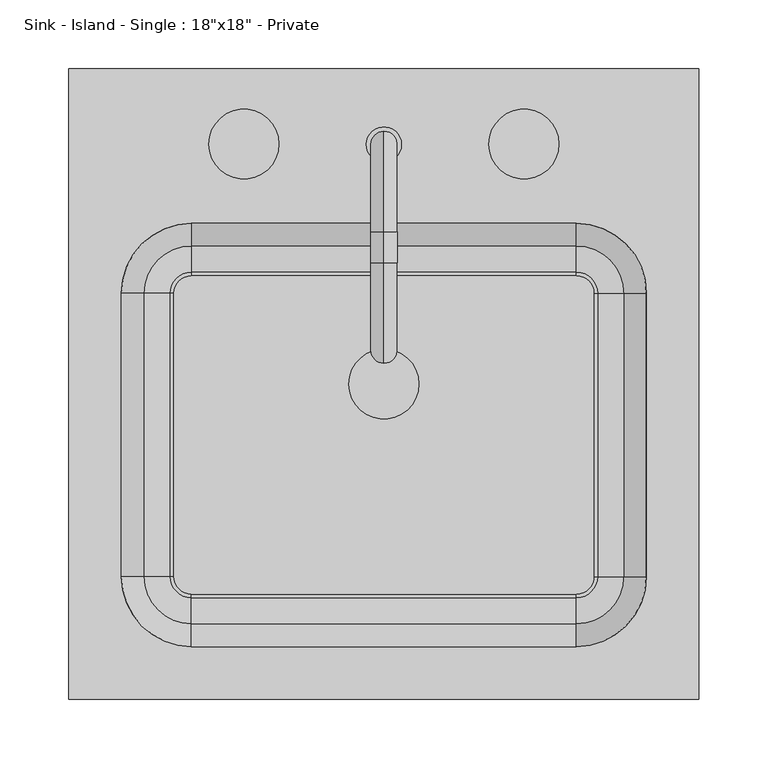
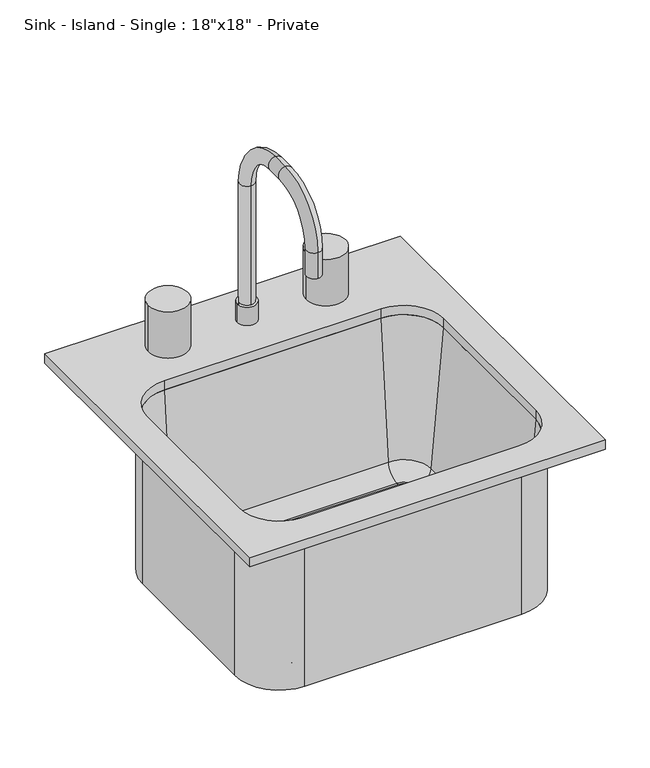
"""IFC4 building model written with IfcOpenShell, lengths in millimetres: flow terminal geometry."""

from ifc_helpers import new_model, si_unit, point, frame, frame_2d, origin, origin_with_axes, origin_2d, place, context, project, spatial, polyline, circle_curve, ellipse_curve, trimmed, segment, composite_curve, outline, extrude, source, transform, mapped, element, save
from ifc_brep_helpers import plane_surface, cylinder_surface, revolved_surface, advanced_brep


def flow_terminal_ae45b8c9(model_context):
    return source(origin(), model_context, "Body", "SolidModel", [
        extrude(outline(composite_curve([segment(trimmed(circle_curve(frame_2d((139.7, 65.8454011)), 12.7), [point((139.7, 78.5454011))], [point((152.4, 65.8454011))], False, "CARTESIAN"), True, "CONTINUOUS"), segment(polyline([(152.4, 65.8454011), (152.4, -139.7)]), True, "CONTINUOUS"), segment(trimmed(circle_curve(frame_2d((139.7, -139.7)), 12.7), [point((152.4, -139.7))], [point((139.7, -152.4))], False, "CARTESIAN"), True, "CONTINUOUS"), segment(polyline([(139.7, -152.4), (-139.7, -152.4)]), True, "CONTINUOUS"), segment(trimmed(circle_curve(frame_2d((-139.7, -139.7)), 12.7), [point((-139.7, -152.4))], [point((-152.4, -139.7))], False, "CARTESIAN"), True, "CONTINUOUS"), segment(polyline([(-152.4, -139.7), (-152.4, 65.8454011)]), True, "CONTINUOUS"), segment(trimmed(circle_curve(frame_2d((-139.7, 65.8454011)), 12.7), [point((-152.4, 65.8454011))], [point((-139.7, 78.5454011))], False, "CARTESIAN"), True, "CONTINUOUS"), segment(polyline([(-139.7, 78.5454011), (139.7, 78.5454011)]), True, "CONTINUOUS")], self_intersect=False), holes=[composite_curve([segment(trimmed(circle_curve(origin_2d(), 25.4), [point((-25.4, 0.0))], [point((25.4, 0.0))], True, "CARTESIAN"), True, "CONTINUOUS"), segment(trimmed(circle_curve(origin_2d(), 25.4), [point((25.4, 0.0))], [point((-25.4, 0.0))], True, "CARTESIAN"), True, "CONTINUOUS")], self_intersect=False)]), frame((0.0, 0.0, -212.725), z_axis=(0.0, 0.0, 1.0), x_axis=(1.0, 0.0, 0.0)), (0.0, 0.0, 1.0), 9.525),
        advanced_brep(
        [(196.85, 65.8454011, -212.725), (139.7, 122.9954011, -212.725), (139.7, 122.9954011, 0.0), (196.85, 65.8454011, 0.0), (152.4, 65.8454011, -212.725), (139.7, 78.5454011, -212.725), (152.4, 65.8454011, -203.2), (139.7, 78.5454011, -203.2), (154.9884182, 65.8454011, -203.2), (139.7, 81.1338193, -203.2), (173.9659272, 65.8454011, -185.8103169), (139.7, 100.1113283, -185.8103169), (190.5, 65.8454011, 0.0), (139.7, 116.6454011, 0.0), (196.85, -139.7, 0.0), (196.85, -139.7, -212.725), (152.4, -139.7, -212.725), (152.4, -139.7, -203.2), (154.9884182, -139.7, -203.2), (173.9659272, -139.7, -185.8103169), (190.5, -139.7, 0.0), (139.7, -196.85, -212.725), (139.7, -196.85, 0.0), (139.7, -152.4, -212.725), (139.7, -152.4, -203.2), (139.7, -154.9884182, -203.2), (139.7, -173.9659272, -185.8103169), (139.7, -190.5, 0.0), (-139.7, -196.85, 0.0), (-139.7, -196.85, -212.725), (-139.7, -152.4, -212.725), (-139.7, -152.4, -203.2), (-139.7, -154.9884182, -203.2), (-139.7, -173.9659272, -185.8103169), (-139.7, -190.5, 0.0), (-196.85, -139.7, -212.725), (-196.85, -139.7, 0.0), (-152.4, -139.7, -212.725), (-152.4, -139.7, -203.2), (-154.9884182, -139.7, -203.2), (-173.9659272, -139.7, -185.8103169), (-190.5, -139.7, 0.0), (-196.85, 65.8454011, 0.0), (-196.85, 65.8454011, -212.725), (-152.4, 65.8454011, -212.725), (-152.4, 65.8454011, -203.2), (-154.9884182, 65.8454011, -203.2), (-173.9659272, 65.8454011, -185.8103169), (-190.5, 65.8454011, 0.0), (-139.7, 122.9954011, -212.725), (-139.7, 122.9954011, 0.0), (-139.7, 78.5454011, -212.725), (-139.7, 78.5454011, -203.2), (-139.7, 81.1338193, -203.2), (-139.7, 100.1113283, -185.8103169), (-139.7, 116.6454011, 0.0)],
        [
            (0, 1, circle_curve(frame((139.7, 65.8454011, -212.725), z_axis=(0.0, 0.0, 1.0), x_axis=(0.0, 1.0, 0.0)), 57.15)),
            (1, 2),
            (2, 3, circle_curve(frame((139.7, 65.8454011, 0.0), z_axis=(0.0, 0.0, -1.0), x_axis=(0.0, 1.0, 0.0)), 57.15)),
            (3, 0),
            (4, 5, circle_curve(frame((139.7, 65.8454011, -212.725), z_axis=(0.0, 0.0, 1.0), x_axis=(0.0, 1.0, 0.0)), 12.7)),
            (5, 1),
            (0, 4),
            (6, 7, circle_curve(frame((139.7, 65.8454011, -203.2), z_axis=(0.0, 0.0, 1.0), x_axis=(0.0, 1.0, 0.0)), 12.7)),
            (7, 5),
            (4, 6),
            (8, 9, circle_curve(frame((139.7, 65.8454011, -203.2), z_axis=(0.0, 0.0, 1.0), x_axis=(0.0, 1.0, 0.0)), 15.2884182)),
            (9, 7),
            (6, 8),
            (10, 11, circle_curve(frame((139.7, 65.8454011, -185.8103169), z_axis=(0.0, 0.0, 1.0), x_axis=(0.0, 1.0, 0.0)), 34.2659272)),
            (11, 9, circle_curve(frame((139.7, 81.1338193, -184.15), z_axis=(-1.0, 0.0, 0.0), x_axis=(0.0, 1.0, 0.0)), 19.05)),
            (8, 10, circle_curve(frame((154.9884182, 65.8454011, -184.15), z_axis=(0.0, -1.0, 0.0), x_axis=(1.0, 0.0, 0.0)), 19.05)),
            (12, 13, circle_curve(frame((139.7, 65.8454011, 0.0), z_axis=(0.0, 0.0, 1.0), x_axis=(0.0, 1.0, 0.0)), 50.8)),
            (13, 11),
            (10, 12),
            (2, 13),
            (12, 3),
            (3, 14),
            (14, 15),
            (15, 0),
            (15, 16),
            (16, 4),
            (16, 17),
            (17, 6),
            (17, 18),
            (18, 8),
            (18, 19, circle_curve(frame((154.9884182, -139.7, -184.15), z_axis=(0.0, -1.0, 0.0), x_axis=(1.0, 0.0, 0.0)), 19.05)),
            (19, 10),
            (19, 20),
            (20, 12),
            (20, 14),
            (21, 15, circle_curve(frame((139.7, -139.7, -212.725), z_axis=(0.0, 0.0, 1.0), x_axis=(1.0, 0.0, 0.0)), 57.15)),
            (14, 22, circle_curve(frame((139.7, -139.7, 0.0), z_axis=(0.0, 0.0, -1.0), x_axis=(1.0, 0.0, 0.0)), 57.15)),
            (22, 21),
            (23, 16, circle_curve(frame((139.7, -139.7, -212.725), z_axis=(0.0, 0.0, 1.0), x_axis=(1.0, 0.0, 0.0)), 12.7)),
            (21, 23),
            (24, 17, circle_curve(frame((139.7, -139.7, -203.2), z_axis=(0.0, 0.0, 1.0), x_axis=(1.0, 0.0, 0.0)), 12.7)),
            (23, 24),
            (25, 18, circle_curve(frame((139.7, -139.7, -203.2), z_axis=(0.0, 0.0, 1.0), x_axis=(1.0, 0.0, 0.0)), 15.2884182)),
            (24, 25),
            (26, 19, circle_curve(frame((139.7, -139.7, -185.8103169), z_axis=(0.0, 0.0, 1.0), x_axis=(1.0, 0.0, 0.0)), 34.2659272)),
            (25, 26, circle_curve(frame((139.7, -154.9884182, -184.15), z_axis=(-1.0, 0.0, 0.0), x_axis=(0.0, -1.0, 0.0)), 19.05)),
            (27, 20, circle_curve(frame((139.7, -139.7, 0.0), z_axis=(0.0, 0.0, 1.0), x_axis=(1.0, 0.0, 0.0)), 50.8)),
            (26, 27),
            (27, 22),
            (22, 28),
            (28, 29),
            (29, 21),
            (29, 30),
            (30, 23),
            (30, 31),
            (31, 24),
            (31, 32),
            (32, 25),
            (32, 33, circle_curve(frame((-139.7, -154.9884182, -184.15), z_axis=(-1.0, 0.0, 0.0), x_axis=(0.0, -1.0, 0.0)), 19.05)),
            (33, 26),
            (33, 34),
            (34, 27),
            (34, 28),
            (35, 29, circle_curve(frame((-139.7, -139.7, -212.725), z_axis=(0.0, 0.0, 1.0), x_axis=(0.0, -1.0, 0.0)), 57.15)),
            (28, 36, circle_curve(frame((-139.7, -139.7, 0.0), z_axis=(0.0, 0.0, -1.0), x_axis=(0.0, -1.0, 0.0)), 57.15)),
            (36, 35),
            (37, 30, circle_curve(frame((-139.7, -139.7, -212.725), z_axis=(0.0, 0.0, 1.0), x_axis=(0.0, -1.0, 0.0)), 12.7)),
            (35, 37),
            (38, 31, circle_curve(frame((-139.7, -139.7, -203.2), z_axis=(0.0, 0.0, 1.0), x_axis=(0.0, -1.0, 0.0)), 12.7)),
            (37, 38),
            (39, 32, circle_curve(frame((-139.7, -139.7, -203.2), z_axis=(0.0, 0.0, 1.0), x_axis=(0.0, -1.0, 0.0)), 15.2884182)),
            (38, 39),
            (40, 33, circle_curve(frame((-139.7, -139.7, -185.8103169), z_axis=(0.0, 0.0, 1.0), x_axis=(0.0, -1.0, 0.0)), 34.2659272)),
            (39, 40, circle_curve(frame((-154.9884182, -139.7, -184.15), z_axis=(0.0, 1.0, 0.0), x_axis=(-1.0, 0.0, 0.0)), 19.05)),
            (41, 34, circle_curve(frame((-139.7, -139.7, 0.0), z_axis=(0.0, 0.0, 1.0), x_axis=(0.0, -1.0, 0.0)), 50.8)),
            (40, 41),
            (41, 36),
            (36, 42),
            (42, 43),
            (43, 35),
            (43, 44),
            (44, 37),
            (44, 45),
            (45, 38),
            (45, 46),
            (46, 39),
            (46, 47, circle_curve(frame((-154.9884182, 65.8454011, -184.15), z_axis=(0.0, 1.0, 0.0), x_axis=(-1.0, 0.0, 0.0)), 19.05)),
            (47, 40),
            (47, 48),
            (48, 41),
            (48, 42),
            (49, 43, circle_curve(frame((-139.7, 65.8454011, -212.725), z_axis=(0.0, 0.0, 1.0), x_axis=(-1.0, 0.0, 0.0)), 57.15)),
            (42, 50, circle_curve(frame((-139.7, 65.8454011, 0.0), z_axis=(0.0, 0.0, -1.0), x_axis=(-1.0, 0.0, 0.0)), 57.15)),
            (50, 49),
            (51, 44, circle_curve(frame((-139.7, 65.8454011, -212.725), z_axis=(0.0, 0.0, 1.0), x_axis=(-1.0, 0.0, 0.0)), 12.7)),
            (49, 51),
            (52, 45, circle_curve(frame((-139.7, 65.8454011, -203.2), z_axis=(0.0, 0.0, 1.0), x_axis=(-1.0, 0.0, 0.0)), 12.7)),
            (51, 52),
            (53, 46, circle_curve(frame((-139.7, 65.8454011, -203.2), z_axis=(0.0, 0.0, 1.0), x_axis=(-1.0, 0.0, 0.0)), 15.2884182)),
            (52, 53),
            (54, 47, circle_curve(frame((-139.7, 65.8454011, -185.8103169), z_axis=(0.0, 0.0, 1.0), x_axis=(-1.0, 0.0, 0.0)), 34.2659272)),
            (53, 54, circle_curve(frame((-139.7, 81.1338193, -184.15), z_axis=(1.0, 0.0, 0.0), x_axis=(0.0, 1.0, 0.0)), 19.05)),
            (55, 48, circle_curve(frame((-139.7, 65.8454011, 0.0), z_axis=(0.0, 0.0, 1.0), x_axis=(-1.0, 0.0, 0.0)), 50.8)),
            (54, 55),
            (55, 50),
            (50, 2),
            (1, 49),
            (5, 51),
            (7, 52),
            (9, 53),
            (11, 54),
            (13, 55),
        ],
        [
            cylinder_surface(frame((139.7, 65.8454011, -914.4), z_axis=(0.0, 0.0, -1.0), x_axis=(0.0, 1.0, 0.0)), 57.15),
            plane_surface(frame((139.7, 65.8454011, -212.725), z_axis=(0.0, 0.0, -1.0), x_axis=(0.0, 1.0, 0.0))),
            revolved_surface(polyline([(139.7, 78.5454011, -212.72500000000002), (139.7, 78.5454011, -203.19999999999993)]), (139.7, 65.8454011, -914.4), (0.0, 0.0, -1.0)),
            plane_surface(frame((139.7, 65.8454011, -203.2), z_axis=(0.0, 0.0, 1.0), x_axis=(0.0, 1.0, 0.0))),
            revolved_surface(trimmed(ellipse_curve(frame((139.7, 81.1338193, -184.15), z_axis=(1.0, 0.0, 0.0), x_axis=(0.0, 1.0, 0.0)), 19.05, 19.05), [point((139.7, 81.1338193, -203.2))], [point((139.7, 100.1113283, -185.8103169))], True, "CARTESIAN"), (139.7, 65.8454011, -914.4), (0.0, 0.0, -1.0)),
            revolved_surface(polyline([(139.7, 100.1113283, -185.8103169), (139.7, 116.6454011, 0.0)]), (139.7, 65.8454011, -914.4), (0.0, 0.0, -1.0)),
            plane_surface(frame((139.7, 65.8454011, 0.0), z_axis=(0.0, 0.0, 1.0), x_axis=(0.0, 1.0, 0.0))),
            plane_surface(frame((196.85, 65.8454011, 0.0), z_axis=(1.0, 0.0, 0.0), x_axis=(0.0, -1.0, 0.0))),
            plane_surface(frame((196.85, 65.8454011, -212.725), z_axis=(0.0, 0.0, -1.0), x_axis=(0.0, -1.0, 0.0))),
            plane_surface(frame((152.4, 65.8454011, -212.725), z_axis=(-1.0, 0.0, 0.0), x_axis=(0.0, -1.0, 0.0))),
            plane_surface(frame((152.4, 65.8454011, -203.2), z_axis=(0.0, 0.0, 1.0), x_axis=(0.0, -1.0, 0.0))),
            revolved_surface(polyline([(174.03841820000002, -139.7, -184.15), (174.03841820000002, 65.8454011, -184.15)]), (154.9884182, 65.8454011, -184.15), (0.0, -1.0, 0.0)),
            plane_surface(frame((173.9659272, 65.8454011, -185.8103169), z_axis=(-0.9960643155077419, 0.0, 0.08863339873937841), x_axis=(0.0, -1.0, 0.0))),
            plane_surface(frame((190.5, 65.8454011, 0.0), z_axis=(0.0, 0.0, 1.0), x_axis=(0.0, -1.0, 0.0))),
            cylinder_surface(frame((139.7, -139.7, -914.4), z_axis=(0.0, 0.0, -1.0), x_axis=(1.0, 0.0, 0.0)), 57.15),
            plane_surface(frame((139.7, -139.7, -212.725), z_axis=(0.0, 0.0, -1.0), x_axis=(1.0, 0.0, 0.0))),
            revolved_surface(polyline([(152.39999999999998, -139.7, -212.72500000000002), (152.39999999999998, -139.7, -203.19999999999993)]), (139.7, -139.7, -914.4), (0.0, 0.0, -1.0)),
            plane_surface(frame((139.7, -139.7, -203.2), z_axis=(0.0, 0.0, 1.0), x_axis=(1.0, 0.0, 0.0))),
            revolved_surface(trimmed(ellipse_curve(frame((154.9884182, -139.7, -184.15), z_axis=(0.0, -1.0, 0.0), x_axis=(1.0, 0.0, 0.0)), 19.05, 19.05), [point((154.9884182, -139.7, -203.2))], [point((173.9659272, -139.7, -185.8103169))], True, "CARTESIAN"), (139.7, -139.7, -914.4), (0.0, 0.0, -1.0)),
            revolved_surface(polyline([(173.9659272, -139.7, -185.8103169), (190.5, -139.7, 0.0)]), (139.7, -139.7, -914.4), (0.0, 0.0, -1.0)),
            plane_surface(frame((139.7, -139.7, 0.0), z_axis=(0.0, 0.0, 1.0), x_axis=(1.0, 0.0, 0.0))),
            plane_surface(frame((139.7, -196.85, 0.0), z_axis=(0.0, -1.0, 0.0), x_axis=(-1.0, 0.0, 0.0))),
            plane_surface(frame((139.7, -196.85, -212.725), z_axis=(0.0, 0.0, -1.0), x_axis=(-1.0, 0.0, 0.0))),
            plane_surface(frame((139.7, -152.4, -212.725), z_axis=(0.0, 1.0, 0.0), x_axis=(-1.0, 0.0, 0.0))),
            plane_surface(frame((139.7, -152.4, -203.2), z_axis=(0.0, 0.0, 1.0), x_axis=(-1.0, 0.0, 0.0))),
            revolved_surface(polyline([(-139.7, -174.03841820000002, -184.15), (139.7, -174.03841820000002, -184.15)]), (139.7, -154.9884182, -184.15), (-1.0, 0.0, 0.0)),
            plane_surface(frame((139.7, -173.9659272, -185.8103169), z_axis=(0.0, 0.9960643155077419, 0.08863339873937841), x_axis=(-1.0, 0.0, 0.0))),
            plane_surface(frame((139.7, -190.5, 0.0), z_axis=(0.0, 0.0, 1.0), x_axis=(-1.0, 0.0, 0.0))),
            cylinder_surface(frame((-139.7, -139.7, -914.4), z_axis=(0.0, 0.0, -1.0), x_axis=(0.0, -1.0, 0.0)), 57.15),
            plane_surface(frame((-139.7, -139.7, -212.725), z_axis=(0.0, 0.0, -1.0), x_axis=(0.0, -1.0, 0.0))),
            revolved_surface(polyline([(-139.7, -152.39999999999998, -212.72500000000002), (-139.7, -152.39999999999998, -203.19999999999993)]), (-139.7, -139.7, -914.4), (0.0, 0.0, -1.0)),
            plane_surface(frame((-139.7, -139.7, -203.2), z_axis=(0.0, 0.0, 1.0), x_axis=(0.0, -1.0, 0.0))),
            revolved_surface(trimmed(ellipse_curve(frame((-139.7, -154.9884182, -184.15), z_axis=(-1.0, 0.0, 0.0), x_axis=(0.0, -1.0, 0.0)), 19.05, 19.05), [point((-139.7, -154.9884182, -203.2))], [point((-139.7, -173.9659272, -185.8103169))], True, "CARTESIAN"), (-139.7, -139.7, -914.4), (0.0, 0.0, -1.0)),
            revolved_surface(polyline([(-139.7, -173.9659272, -185.8103169), (-139.7, -190.5, 0.0)]), (-139.7, -139.7, -914.4), (0.0, 0.0, -1.0)),
            plane_surface(frame((-139.7, -139.7, 0.0), z_axis=(0.0, 0.0, 1.0), x_axis=(0.0, -1.0, 0.0))),
            plane_surface(frame((-196.85, -139.7, 0.0), z_axis=(-1.0, 0.0, 0.0), x_axis=(0.0, 1.0, 0.0))),
            plane_surface(frame((-196.85, -139.7, -212.725), z_axis=(0.0, 0.0, -1.0), x_axis=(0.0, 1.0, 0.0))),
            plane_surface(frame((-152.4, -139.7, -212.725), z_axis=(1.0, 0.0, 0.0), x_axis=(0.0, 1.0, 0.0))),
            plane_surface(frame((-152.4, -139.7, -203.2), z_axis=(0.0, 0.0, 1.0), x_axis=(0.0, 1.0, 0.0))),
            revolved_surface(polyline([(-174.03841820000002, 65.8454011, -184.15), (-174.03841820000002, -139.7, -184.15)]), (-154.9884182, -139.7, -184.15), (0.0, 1.0, 0.0)),
            plane_surface(frame((-173.9659272, -139.7, -185.8103169), z_axis=(0.9960643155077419, 0.0, 0.08863339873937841), x_axis=(0.0, 1.0, 0.0))),
            plane_surface(frame((-190.5, -139.7, 0.0), z_axis=(0.0, 0.0, 1.0), x_axis=(0.0, 1.0, 0.0))),
            cylinder_surface(frame((-139.7, 65.8454011, -914.4), z_axis=(0.0, 0.0, -1.0), x_axis=(-1.0, 0.0, 0.0)), 57.15),
            plane_surface(frame((-139.7, 65.8454011, -212.725), z_axis=(0.0, 0.0, -1.0), x_axis=(-1.0, 0.0, 0.0))),
            revolved_surface(polyline([(-152.39999999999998, 65.8454011, -212.72500000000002), (-152.39999999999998, 65.8454011, -203.19999999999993)]), (-139.7, 65.8454011, -914.4), (0.0, 0.0, -1.0)),
            plane_surface(frame((-139.7, 65.8454011, -203.2), z_axis=(0.0, 0.0, 1.0), x_axis=(-1.0, 0.0, 0.0))),
            revolved_surface(trimmed(ellipse_curve(frame((-154.9884182, 65.8454011, -184.15), z_axis=(0.0, 1.0, 0.0), x_axis=(-1.0, 0.0, 0.0)), 19.05, 19.05), [point((-154.9884182, 65.8454011, -203.2))], [point((-173.9659272, 65.8454011, -185.8103169))], True, "CARTESIAN"), (-139.7, 65.8454011, -914.4), (0.0, 0.0, -1.0)),
            revolved_surface(polyline([(-173.9659272, 65.8454011, -185.8103169), (-190.5, 65.8454011, 0.0)]), (-139.7, 65.8454011, -914.4), (0.0, 0.0, -1.0)),
            plane_surface(frame((-139.7, 65.8454011, 0.0), z_axis=(0.0, 0.0, 1.0), x_axis=(-1.0, 0.0, 0.0))),
            plane_surface(frame((-139.7, 122.9954011, 0.0), z_axis=(0.0, 1.0, 0.0), x_axis=(1.0, 0.0, 0.0))),
            plane_surface(frame((-139.7, 122.9954011, -212.725), z_axis=(0.0, 0.0, -1.0), x_axis=(1.0, 0.0, 0.0))),
            plane_surface(frame((-139.7, 78.5454011, -212.725), z_axis=(0.0, -1.0, 0.0), x_axis=(1.0, 0.0, 0.0))),
            plane_surface(frame((-139.7, 78.5454011, -203.2), z_axis=(0.0, 0.0, 1.0), x_axis=(1.0, 0.0, 0.0))),
            revolved_surface(polyline([(139.7, 100.1838193, -184.15), (-139.7, 100.1838193, -184.15)]), (-139.7, 81.1338193, -184.15), (1.0, 0.0, 0.0)),
            plane_surface(frame((-139.7, 100.1113283, -185.8103169), z_axis=(0.0, -0.9960643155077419, 0.08863339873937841), x_axis=(1.0, 0.0, 0.0))),
            plane_surface(frame((-139.7, 116.6454011, 0.0), z_axis=(0.0, 0.0, 1.0), x_axis=(1.0, 0.0, 0.0))),
        ],
        [
            (0, [[1, 2, 3, 4]]),
            (1, [[5, 6, -1, 7]]),
            (2, [[8, 9, -5, 10]]),
            (3, [[11, 12, -8, 13]]),
            (4, [[14, 15, -11, 16]]),
            (5, [[17, 18, -14, 19]]),
            (6, [[-3, 20, -17, 21]]),
            (7, [[-4, 22, 23, 24]]),
            (8, [[-7, -24, 25, 26]]),
            (9, [[-10, -26, 27, 28]]),
            (10, [[-13, -28, 29, 30]]),
            (11, [[-16, -30, 31, 32]]),
            (12, [[-19, -32, 33, 34]]),
            (13, [[-21, -34, 35, -22]]),
            (14, [[36, -23, 37, 38]]),
            (15, [[39, -25, -36, 40]]),
            (16, [[41, -27, -39, 42]]),
            (17, [[43, -29, -41, 44]]),
            (18, [[45, -31, -43, 46]]),
            (19, [[47, -33, -45, 48]]),
            (20, [[-37, -35, -47, 49]]),
            (21, [[-38, 50, 51, 52]]),
            (22, [[-40, -52, 53, 54]]),
            (23, [[-42, -54, 55, 56]]),
            (24, [[-44, -56, 57, 58]]),
            (25, [[-46, -58, 59, 60]]),
            (26, [[-48, -60, 61, 62]]),
            (27, [[-49, -62, 63, -50]]),
            (28, [[64, -51, 65, 66]]),
            (29, [[67, -53, -64, 68]]),
            (30, [[69, -55, -67, 70]]),
            (31, [[71, -57, -69, 72]]),
            (32, [[73, -59, -71, 74]]),
            (33, [[75, -61, -73, 76]]),
            (34, [[-65, -63, -75, 77]]),
            (35, [[-66, 78, 79, 80]]),
            (36, [[-68, -80, 81, 82]]),
            (37, [[-70, -82, 83, 84]]),
            (38, [[-72, -84, 85, 86]]),
            (39, [[-74, -86, 87, 88]]),
            (40, [[-76, -88, 89, 90]]),
            (41, [[-77, -90, 91, -78]]),
            (42, [[92, -79, 93, 94]]),
            (43, [[95, -81, -92, 96]]),
            (44, [[97, -83, -95, 98]]),
            (45, [[99, -85, -97, 100]]),
            (46, [[101, -87, -99, 102]]),
            (47, [[103, -89, -101, 104]]),
            (48, [[-93, -91, -103, 105]]),
            (49, [[-94, 106, -2, 107]]),
            (50, [[-96, -107, -6, 108]]),
            (51, [[-98, -108, -9, 109]]),
            (52, [[-100, -109, -12, 110]]),
            (53, [[-102, -110, -15, 111]]),
            (54, [[-104, -111, -18, 112]]),
            (55, [[-105, -112, -20, -106]]),
        ],
    ),
        extrude(outline(polyline([(228.6, 228.6), (228.6, -228.6), (-228.6, -228.6), (-228.6, 228.6), (228.6, 228.6)]), holes=[composite_curve([segment(polyline([(139.7, 116.6454011), (-139.7, 116.6454011)]), True, "CONTINUOUS"), segment(trimmed(circle_curve(frame_2d((-139.7, 65.8454011)), 50.8), [point((-139.7, 116.6454011))], [point((-190.5, 65.8454011))], True, "CARTESIAN"), True, "CONTINUOUS"), segment(polyline([(-190.5, 65.8454011), (-190.5, -139.7)]), True, "CONTINUOUS"), segment(trimmed(circle_curve(frame_2d((-139.7, -139.7)), 50.8), [point((-190.5, -139.7))], [point((-139.7, -190.5))], True, "CARTESIAN"), True, "CONTINUOUS"), segment(polyline([(-139.7, -190.5), (139.7, -190.5)]), True, "CONTINUOUS"), segment(trimmed(circle_curve(frame_2d((139.7, -139.7)), 50.8), [point((139.7, -190.5))], [point((190.5, -139.7))], True, "CARTESIAN"), True, "CONTINUOUS"), segment(polyline([(190.5, -139.7), (190.5, 65.8454011)]), True, "CONTINUOUS"), segment(trimmed(circle_curve(frame_2d((139.7, 65.8454011)), 50.8), [point((190.5, 65.8454011))], [point((139.7, 116.6454011))], True, "CARTESIAN"), True, "CONTINUOUS")], self_intersect=False)]), origin_with_axes(), (0.0, 0.0, 1.0), 12.7),
        extrude(outline(composite_curve([segment(trimmed(circle_curve(frame_2d((0.0, 173.7954011)), 12.7), [point((-12.7, 173.7954011))], [point((12.7, 173.7954011))], False, "CARTESIAN"), True, "CONTINUOUS"), segment(trimmed(circle_curve(frame_2d((0.0, 173.7954011)), 12.7), [point((12.7, 173.7954011))], [point((-12.7, 173.7954011))], False, "CARTESIAN"), True, "CONTINUOUS")], self_intersect=False)), frame((0.0, 0.0, 12.7), z_axis=(0.0, 0.0, 1.0), x_axis=(1.0, 0.0, 0.0)), (0.0, 0.0, 1.0), 25.4),
        advanced_brep(
        [(0.0, 183.3204011, 12.7), (0.0, 164.2704011, 12.7), (0.0, 183.3204011, 200.025), (0.0, 164.2704011, 200.025), (0.0, 110.2954011, 254.0), (0.0, 110.2954011, 273.05), (0.0, 88.0704011, 273.05), (0.0, 88.0704011, 254.0), (0.0, 34.0954011, 200.025), (0.0, 15.0454011, 200.025), (0.0, 15.0454011, 165.1), (0.0, 34.0954011, 165.1)],
        [
            (0, 1, circle_curve(frame((0.0, 173.7954011, 12.7), z_axis=(0.0, 0.0, -1.0), x_axis=(0.0, -1.0, 0.0)), 9.525)),
            (1, 0, circle_curve(frame((0.0, 173.7954011, 12.7), z_axis=(0.0, 0.0, -1.0), x_axis=(0.0, -1.0, 0.0)), 9.525)),
            (0, 2),
            (2, 3, circle_curve(frame((0.0, 173.7954011, 200.025), z_axis=(0.0, 0.0, -1.0), x_axis=(0.0, -1.0, 0.0)), 9.525)),
            (3, 1),
            (3, 2, circle_curve(frame((0.0, 173.7954011, 200.025), z_axis=(0.0, 0.0, -1.0), x_axis=(0.0, -1.0, 0.0)), 9.525)),
            (4, 3, circle_curve(frame((0.0, 110.2954011, 200.025), z_axis=(-1.0, 0.0, 0.0), x_axis=(0.0, 1.0, 0.0)), 53.975)),
            (2, 5, circle_curve(frame((0.0, 110.2954011, 200.025), z_axis=(1.0, 0.0, 0.0), x_axis=(0.0, 1.0, 0.0)), 73.025)),
            (5, 4, circle_curve(frame((0.0, 110.2954011, 263.525), z_axis=(0.0, 1.0, 0.0), x_axis=(0.0, 0.0, -1.0)), 9.525)),
            (4, 5, circle_curve(frame((0.0, 110.2954011, 263.525), z_axis=(0.0, 1.0, 0.0), x_axis=(0.0, 0.0, -1.0)), 9.525)),
            (5, 6),
            (6, 7, circle_curve(frame((0.0, 88.0704011, 263.525), z_axis=(0.0, 1.0, 0.0), x_axis=(0.0, 0.0, -1.0)), 9.525)),
            (7, 4),
            (7, 6, circle_curve(frame((0.0, 88.0704011, 263.525), z_axis=(0.0, 1.0, 0.0), x_axis=(0.0, 0.0, -1.0)), 9.525)),
            (8, 7, circle_curve(frame((0.0, 88.0704011, 200.025), z_axis=(-1.0, 0.0, 0.0), x_axis=(0.0, 0.0, 1.0)), 53.975)),
            (6, 9, circle_curve(frame((0.0, 88.0704011, 200.025), z_axis=(1.0, 0.0, 0.0), x_axis=(0.0, 0.0, 1.0)), 73.025)),
            (9, 8, circle_curve(frame((0.0, 24.5704011, 200.025), z_axis=(0.0, 0.0, 1.0), x_axis=(0.0, 1.0, 0.0)), 9.525)),
            (8, 9, circle_curve(frame((0.0, 24.5704011, 200.025), z_axis=(0.0, 0.0, 1.0), x_axis=(0.0, 1.0, 0.0)), 9.525)),
            (10, 11, circle_curve(frame((0.0, 24.5704011, 165.1), z_axis=(0.0, 0.0, -1.0), x_axis=(0.0, 1.0, 0.0)), 9.525)),
            (11, 10, circle_curve(frame((0.0, 24.5704011, 165.1), z_axis=(0.0, 0.0, -1.0), x_axis=(0.0, 1.0, 0.0)), 9.525)),
            (9, 10),
            (11, 8),
        ],
        [
            plane_surface(frame((0.0, 164.2704011, 12.7), z_axis=(0.0, 0.0, -1.0), x_axis=(1.0, 0.0, 0.0))),
            cylinder_surface(frame((0.0, 173.7954011, 12.7), z_axis=(0.0, 0.0, -1.0), x_axis=(0.0, -1.0, 0.0)), 9.525),
            revolved_surface(trimmed(ellipse_curve(frame((0.0, 173.7954011, 200.025), z_axis=(0.0, 0.0, -1.0), x_axis=(0.0, -1.0, 0.0)), 9.525, 9.525), [point((0.0, 183.3204011, 200.025))], [point((0.0, 164.2704011, 200.025))], True, "CARTESIAN"), (0.0, 110.2954011, 200.025), (1.0, 0.0, 0.0)),
            revolved_surface(trimmed(ellipse_curve(frame((0.0, 173.7954011, 200.025), z_axis=(0.0, 0.0, -1.0), x_axis=(0.0, -1.0, 0.0)), 9.525, 9.525), [point((0.0, 164.2704011, 200.025))], [point((0.0, 183.3204011, 200.025))], True, "CARTESIAN"), (0.0, 110.2954011, 200.025), (1.0, 0.0, 0.0)),
            cylinder_surface(frame((0.0, 110.2954011, 263.525), z_axis=(0.0, 1.0, 0.0), x_axis=(0.0, 0.0, -1.0)), 9.525),
            revolved_surface(trimmed(ellipse_curve(frame((0.0, 88.0704011, 263.525), z_axis=(0.0, 1.0, 0.0), x_axis=(0.0, 0.0, -1.0)), 9.525, 9.525), [point((0.0, 88.0704011, 273.05))], [point((0.0, 88.0704011, 254.0))], True, "CARTESIAN"), (0.0, 88.0704011, 200.025), (1.0, 0.0, 0.0)),
            revolved_surface(trimmed(ellipse_curve(frame((0.0, 88.0704011, 263.525), z_axis=(0.0, 1.0, 0.0), x_axis=(0.0, 0.0, -1.0)), 9.525, 9.525), [point((0.0, 88.0704011, 254.0))], [point((0.0, 88.0704011, 273.05))], True, "CARTESIAN"), (0.0, 88.0704011, 200.025), (1.0, 0.0, 0.0)),
            plane_surface(frame((0.0, 15.0454011, 165.1), z_axis=(0.0, 0.0, -1.0), x_axis=(-1.0, 0.0, 0.0))),
            cylinder_surface(frame((0.0, 24.5704011, 200.025), z_axis=(0.0, 0.0, 1.0), x_axis=(0.0, 1.0, 0.0)), 9.525),
        ],
        [
            (0, [[1, 2]]),
            (1, [[-1, 3, 4, 5]]),
            (1, [[-2, -5, 6, -3]]),
            (2, [[7, -4, 8, 9]]),
            (3, [[-8, -6, -7, 10]]),
            (4, [[-9, 11, 12, 13]]),
            (4, [[-10, -13, 14, -11]]),
            (5, [[15, -12, 16, 17]]),
            (6, [[-16, -14, -15, 18]]),
            (7, [[19, 20]]),
            (8, [[-17, 21, -20, 22]]),
            (8, [[-18, -22, -19, -21]]),
        ],
    ),
        extrude(outline(composite_curve([segment(trimmed(circle_curve(frame_2d((-101.6, 174.0458909)), 25.4), [point((-127.0, 174.0458909))], [point((-76.2, 174.0458909))], False, "CARTESIAN"), True, "CONTINUOUS"), segment(trimmed(circle_curve(frame_2d((-101.6, 174.0458909)), 25.4), [point((-76.2, 174.0458909))], [point((-127.0, 174.0458909))], False, "CARTESIAN"), True, "CONTINUOUS")], self_intersect=False)), origin_with_axes(), (0.0, 0.0, 1.0), 76.2),
        extrude(outline(composite_curve([segment(trimmed(circle_curve(frame_2d((101.6, 174.0458909)), 25.4), [point((76.2, 174.0458909))], [point((127.0, 174.0458909))], False, "CARTESIAN"), True, "CONTINUOUS"), segment(trimmed(circle_curve(frame_2d((101.6, 174.0458909)), 25.4), [point((127.0, 174.0458909))], [point((76.2, 174.0458909))], False, "CARTESIAN"), True, "CONTINUOUS")], self_intersect=False)), origin_with_axes(), (0.0, 0.0, 1.0), 76.2),
        extrude(outline(composite_curve([segment(trimmed(circle_curve(origin_2d(), 25.4), [point((-25.4, 0.0))], [point((25.4, 0.0))], False, "CARTESIAN"), True, "CONTINUOUS"), segment(trimmed(circle_curve(origin_2d(), 25.4), [point((25.4, 0.0))], [point((-25.4, 0.0))], False, "CARTESIAN"), True, "CONTINUOUS")], self_intersect=False)), frame((0.0, 0.0, -212.725), z_axis=(0.0, 0.0, 1.0), x_axis=(1.0, 0.0, 0.0)), (0.0, 0.0, 1.0), 9.525),
    ])


if __name__ == "__main__":
    model = new_model("IFC4")
    model_context = context("Model", 3, world=origin())
    ifc_project = project(units=[si_unit("LENGTHUNIT", "METRE", prefix="MILLI")], contexts=[model_context])
    site = spatial("IfcSite", under=ifc_project)
    building = spatial("IfcBuilding", under=site)
    placement = place(None, origin())
    flow_terminal_shape = flow_terminal_ae45b8c9(model_context)
    element("IfcFlowTerminal", 1, ObjectType="Sink - Island - Single : 18\"x18\" - Private", at=placement, inside=building, context=model_context, shape_type="MappedRepresentation", body=[
        mapped(flow_terminal_shape, transform((0.0, 0.0, 0.0), x_axis=(1.0, 0.0, 0.0), y_axis=(0.0, 1.0, 0.0), z_axis=(0.0, 0.0, 1.0))),
    ])
    save(model, "model.ifc")
